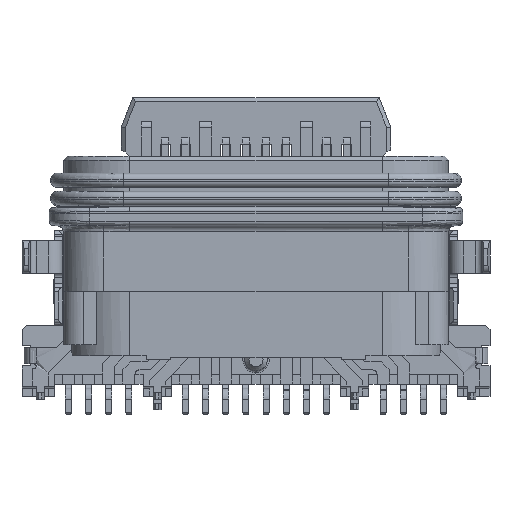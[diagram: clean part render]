
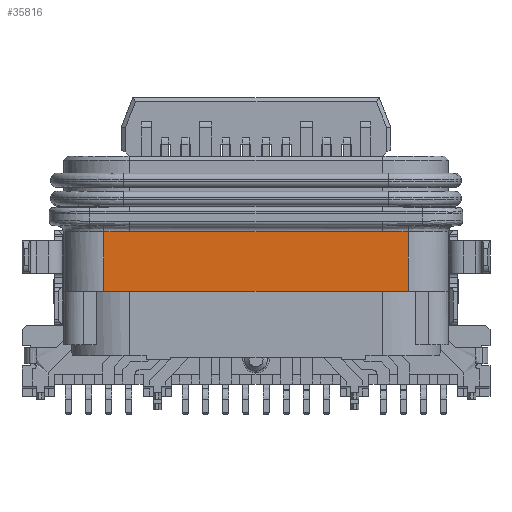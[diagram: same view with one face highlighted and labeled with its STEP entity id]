
A CAD part, front view. The second image highlights one B-rep face of the part: STEP entity #35816.
In plain terms, the highlighted planar face has unit normal (0, -1, 0).
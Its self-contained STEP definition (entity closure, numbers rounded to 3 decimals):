
#246 = B_SPLINE_CURVE_WITH_KNOTS ( 'NONE', 3,
 ( #73475, #50951, #41660, #57319 ),
 .UNSPECIFIED., .F., .F.,
 ( 4, 4 ),
 ( 0., 1. ),
 .UNSPECIFIED. ) ;
#1412 = CARTESIAN_POINT ( 'NONE',  ( 2.093, -1.28, -2.93 ) ) ;
#1452 = EDGE_CURVE ( 'NONE', #58254, #4035, #9801, .T. ) ;
#1774 = B_SPLINE_CURVE_WITH_KNOTS ( 'NONE', 3,
 ( #60319, #66227, #44168, #52950 ),
 .UNSPECIFIED., .F., .F.,
 ( 4, 4 ),
 ( 0., 1. ),
 .UNSPECIFIED. ) ;
#2395 = ORIENTED_EDGE ( 'NONE', *, *, #57943, .F. ) ;
#4035 = VERTEX_POINT ( 'NONE', #83705 ) ;
#6046 = CARTESIAN_POINT ( 'NONE',  ( 3.56, -1.28, -2.928 ) ) ;
#6606 = AXIS2_PLACEMENT_3D ( 'NONE', #86644, #56788, #48956 ) ;
#8672 = VERTEX_POINT ( 'NONE', #65819 ) ;
#9801 = B_SPLINE_CURVE_WITH_KNOTS ( 'NONE', 3,
 ( #56756, #64611, #80750, #20066 ),
 .UNSPECIFIED., .F., .F.,
 ( 4, 4 ),
 ( 0., 1. ),
 .UNSPECIFIED. ) ;
#11236 = CARTESIAN_POINT ( 'NONE',  ( -3.14, -1.28, -2.93 ) ) ;
#12253 = CARTESIAN_POINT ( 'NONE',  ( 3.77, -1.28, -2.924 ) ) ;
#12758 = PLANE ( 'NONE',  #6606 ) ;
#12968 = CARTESIAN_POINT ( 'NONE',  ( -3.14, -1.28, -2.93 ) ) ;
#16137 = CARTESIAN_POINT ( 'NONE',  ( 0., -1.28, -2.93 ) ) ;
#18920 = EDGE_CURVE ( 'NONE', #8672, #34488, #246, .T. ) ;
#20066 = CARTESIAN_POINT ( 'NONE',  ( -3.77, -1.28, -2.924 ) ) ;
#21386 = EDGE_CURVE ( 'NONE', #58254, #8672, #1774, .T. ) ;
#22475 = CARTESIAN_POINT ( 'NONE',  ( 3.77, -1.28, -4.4 ) ) ;
#23376 = CARTESIAN_POINT ( 'NONE',  ( 3.14, -1.28, -2.93 ) ) ;
#24670 = ORIENTED_EDGE ( 'NONE', *, *, #50556, .F. ) ;
#25389 = CARTESIAN_POINT ( 'NONE',  ( -3.35, -1.28, -2.93 ) ) ;
#26599 = VERTEX_POINT ( 'NONE', #12253 ) ;
#28058 = CARTESIAN_POINT ( 'NONE',  ( 3.14, -1.28, -2.93 ) ) ;
#34488 = VERTEX_POINT ( 'NONE', #76291 ) ;
#35816 = ADVANCED_FACE ( 'NONE', ( #72467 ), #12758, .F. ) ;
#36177 = CARTESIAN_POINT ( 'NONE',  ( 3.77, -1.28, -2.924 ) ) ;
#39577 = CARTESIAN_POINT ( 'NONE',  ( 1.047, -1.28, -2.93 ) ) ;
#40933 = EDGE_CURVE ( 'NONE', #95926, #42273, #92864, .T. ) ;
#41399 = B_SPLINE_CURVE_WITH_KNOTS ( 'NONE', 3,
 ( #28058, #56942, #6046, #66732 ),
 .UNSPECIFIED., .F., .F.,
 ( 4, 4 ),
 ( 0., 1. ),
 .UNSPECIFIED. ) ;
#41660 = CARTESIAN_POINT ( 'NONE',  ( 2.513, -1.28, -4.4 ) ) ;
#42273 = VERTEX_POINT ( 'NONE', #23376 ) ;
#44168 = CARTESIAN_POINT ( 'NONE',  ( -1.257, -1.28, -4.4 ) ) ;
#45062 = ORIENTED_EDGE ( 'NONE', *, *, #18920, .T. ) ;
#47400 = CARTESIAN_POINT ( 'NONE',  ( 3.14, -1.28, -2.93 ) ) ;
#48956 = DIRECTION ( 'NONE',  ( 1., 0., 0. ) ) ;
#50556 = EDGE_CURVE ( 'NONE', #26599, #34488, #58274, .T. ) ;
#50951 = CARTESIAN_POINT ( 'NONE',  ( 1.257, -1.28, -4.4 ) ) ;
#51820 = CARTESIAN_POINT ( 'NONE',  ( 3.77, -1.28, -3.416 ) ) ;
#52502 = CARTESIAN_POINT ( 'NONE',  ( -1.047, -1.28, -2.93 ) ) ;
#52950 = CARTESIAN_POINT ( 'NONE',  ( 0., -1.28, -4.4 ) ) ;
#53485 = EDGE_CURVE ( 'NONE', #4035, #65324, #94767, .T. ) ;
#53933 = CARTESIAN_POINT ( 'NONE',  ( -2.093, -1.28, -2.93 ) ) ;
#54307 = CARTESIAN_POINT ( 'NONE',  ( -3.77, -1.28, -2.924 ) ) ;
#56358 = EDGE_CURVE ( 'NONE', #42273, #26599, #41399, .T. ) ;
#56756 = CARTESIAN_POINT ( 'NONE',  ( -3.77, -1.28, -4.4 ) ) ;
#56788 = DIRECTION ( 'NONE',  ( 0., 1., 0. ) ) ;
#56942 = CARTESIAN_POINT ( 'NONE',  ( 3.35, -1.28, -2.93 ) ) ;
#57319 = CARTESIAN_POINT ( 'NONE',  ( 3.77, -1.28, -4.4 ) ) ;
#57943 = EDGE_CURVE ( 'NONE', #65324, #95926, #77864, .T. ) ;
#58254 = VERTEX_POINT ( 'NONE', #88504 ) ;
#58274 = B_SPLINE_CURVE_WITH_KNOTS ( 'NONE', 3,
 ( #36177, #51820, #89499, #22475 ),
 .UNSPECIFIED., .F., .F.,
 ( 4, 4 ),
 ( 0., 1. ),
 .UNSPECIFIED. ) ;
#60319 = CARTESIAN_POINT ( 'NONE',  ( -3.77, -1.28, -4.4 ) ) ;
#64611 = CARTESIAN_POINT ( 'NONE',  ( -3.77, -1.28, -3.908 ) ) ;
#65324 = VERTEX_POINT ( 'NONE', #12968 ) ;
#65819 = CARTESIAN_POINT ( 'NONE',  ( 0., -1.28, -4.4 ) ) ;
#66227 = CARTESIAN_POINT ( 'NONE',  ( -2.513, -1.28, -4.4 ) ) ;
#66732 = CARTESIAN_POINT ( 'NONE',  ( 3.77, -1.28, -2.924 ) ) ;
#67421 = ORIENTED_EDGE ( 'NONE', *, *, #21386, .T. ) ;
#69984 = CARTESIAN_POINT ( 'NONE',  ( 0., -1.28, -2.93 ) ) ;
#70625 = EDGE_LOOP ( 'NONE', ( #2395, #94137, #89239, #67421, #45062, #24670, #93900, #76905 ) ) ;
#72467 = FACE_OUTER_BOUND ( 'NONE', #70625, .T. ) ;
#73475 = CARTESIAN_POINT ( 'NONE',  ( 0., -1.28, -4.4 ) ) ;
#75496 = CARTESIAN_POINT ( 'NONE',  ( -3.14, -1.28, -2.93 ) ) ;
#76291 = CARTESIAN_POINT ( 'NONE',  ( 3.77, -1.28, -4.4 ) ) ;
#76905 = ORIENTED_EDGE ( 'NONE', *, *, #40933, .F. ) ;
#77864 = B_SPLINE_CURVE_WITH_KNOTS ( 'NONE', 3,
 ( #75496, #53933, #52502, #90664 ),
 .UNSPECIFIED., .F., .F.,
 ( 4, 4 ),
 ( 0., 1. ),
 .UNSPECIFIED. ) ;
#80750 = CARTESIAN_POINT ( 'NONE',  ( -3.77, -1.28, -3.416 ) ) ;
#83705 = CARTESIAN_POINT ( 'NONE',  ( -3.77, -1.28, -2.924 ) ) ;
#85607 = CARTESIAN_POINT ( 'NONE',  ( -3.56, -1.28, -2.928 ) ) ;
#86644 = CARTESIAN_POINT ( 'NONE',  ( 0., -1.28, -3.662 ) ) ;
#88504 = CARTESIAN_POINT ( 'NONE',  ( -3.77, -1.28, -4.4 ) ) ;
#89239 = ORIENTED_EDGE ( 'NONE', *, *, #1452, .F. ) ;
#89499 = CARTESIAN_POINT ( 'NONE',  ( 3.77, -1.28, -3.908 ) ) ;
#90664 = CARTESIAN_POINT ( 'NONE',  ( 0., -1.28, -2.93 ) ) ;
#92864 = B_SPLINE_CURVE_WITH_KNOTS ( 'NONE', 3,
 ( #16137, #39577, #1412, #47400 ),
 .UNSPECIFIED., .F., .F.,
 ( 4, 4 ),
 ( 0., 1. ),
 .UNSPECIFIED. ) ;
#93900 = ORIENTED_EDGE ( 'NONE', *, *, #56358, .F. ) ;
#94137 = ORIENTED_EDGE ( 'NONE', *, *, #53485, .F. ) ;
#94767 = B_SPLINE_CURVE_WITH_KNOTS ( 'NONE', 3,
 ( #54307, #85607, #25389, #11236 ),
 .UNSPECIFIED., .F., .F.,
 ( 4, 4 ),
 ( 0., 1. ),
 .UNSPECIFIED. ) ;
#95926 = VERTEX_POINT ( 'NONE', #69984 ) ;
